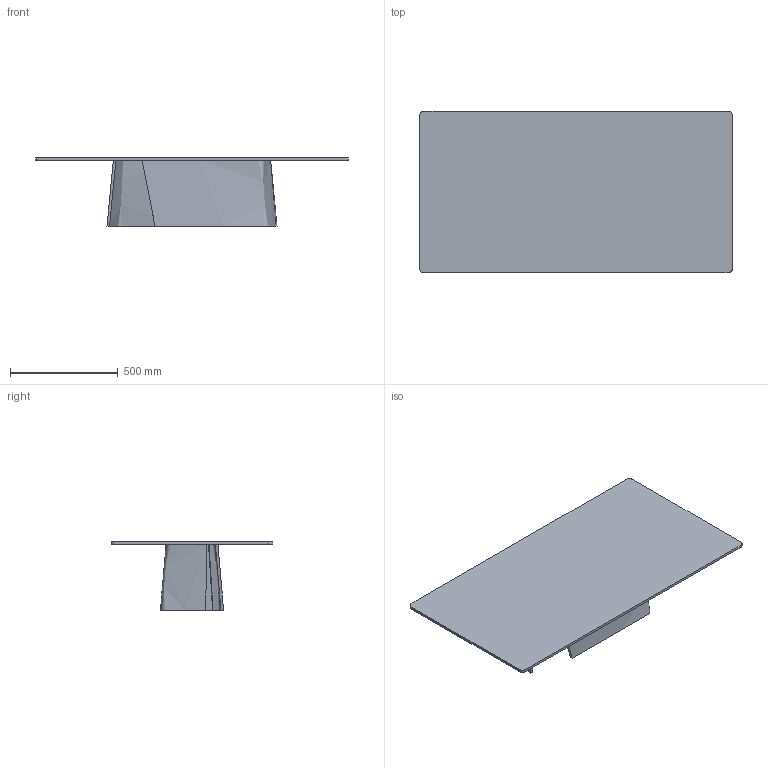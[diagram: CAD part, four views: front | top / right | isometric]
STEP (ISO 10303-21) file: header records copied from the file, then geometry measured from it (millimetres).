
FILE_DESCRIPTION(/* description */ (''),/* implementation_level */ '2;1');
FILE_NAME(/* name */ '500.601 - Accordo Tavolino rettangolare H32 145x75',/* time_stamp */ '2010-11-03T16:29:49+01:00',/* author */ (''),/* organization */ (''),/* preprocessor_version */ 'ST-DEVELOPER v10',/* originating_system */ '',/* authorisation */ '');
FILE_SCHEMA (('CONFIG_CONTROL_DESIGN'));
Length unit declared in the file: centimetre
Products named in the file (1): 1
Bounding box: 1450 x 750 x 317 mm (x, y, z)
Volume: 16166822 mm3; surface area: 3027603.4 mm2
Topology: 3 solids, 3 shells, 18 faces, 36 edges, 24 vertices
Faces by surface type: bspline 12, plane 6
Entity records: 726 total; most frequent: CARTESIAN_POINT 424, ORIENTED_EDGE 72, EDGE_CURVE 36, VERTEX_POINT 24, ADVANCED_FACE 18, FACE_OUTER_BOUND 18, EDGE_LOOP 18, DIRECTION 10
